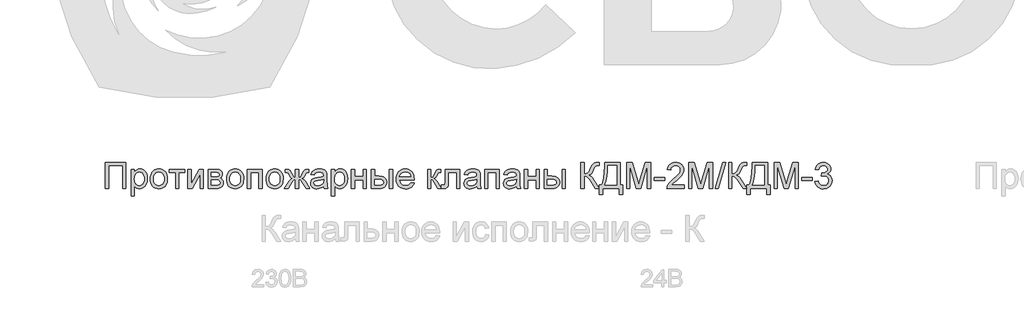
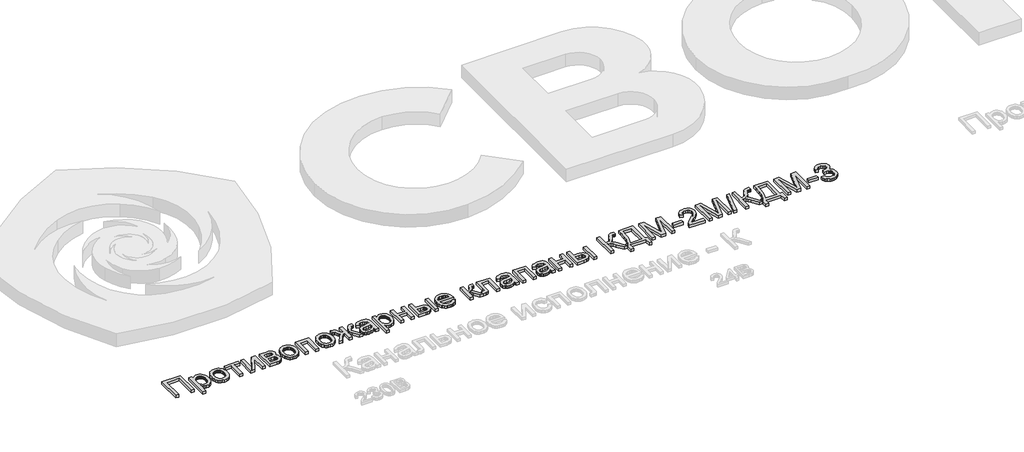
# One storey, part 13 of 23: 1 proxy.
"""IFC4 building model written with IfcOpenShell, lengths in millimetres."""

from ifc_helpers import new_model, si_unit, origin, origin_with_axes, place, context, project, spatial, polyline, outline, extrude, element, save

model = new_model("IFC4")

# Units and contexts
model_context = context("Model", 3, world=origin())
ifc_project = project(units=[si_unit("LENGTHUNIT", "METRE", prefix="MILLI")], contexts=[model_context])

# Site, building, storey
site = spatial("IfcSite", under=ifc_project)
building = spatial("IfcBuilding", under=site)
storey = spatial("IfcBuildingStorey", under=building, Name="Этаж 01", Elevation=0.0)

# Proxy
placement = place(None, origin())
element("IfcBuildingElementProxy", 1, Name="450 мм Arial", ObjectType="450 мм Arial", at=placement, inside=storey, context=model_context, shape_type="SweptSolid", body=[
    extrude(outline(polyline([(947.7209967, -1162.9519857), (1299.0148583, -1162.9519857), (1299.0148583, -1612.6081285), (1242.8078404, -1612.6081285), (1242.8078404, -1219.1590035), (1003.9280146, -1219.1590035), (1003.9280146, -1612.6081285), (947.7209967, -1612.6081285), (947.7209967, -1162.9519857)])), origin_with_axes(), (0.0, 0.0, 1.0), 50.0),
    extrude(outline(polyline([(1390.3512623, -1739.0739187), (1390.3512623, -1282.3918986), (1446.5582802, -1282.3918986), (1446.5582802, -1337.5011231), (1464.8914286, -1310.3170161), (1485.4201636, -1290.8997968), (1509.3520579, -1279.2494652), (1537.8946842, -1275.3660214), (1575.9057778, -1280.8000983), (1609.1414705, -1297.1023291), (1636.2020757, -1323.2846997), (1655.6879071, -1358.3591962), (1667.4617405, -1399.7734491), (1671.3863516, -1444.9750889), (1666.954011, -1493.0447138), (1653.6569895, -1536.0370446), (1631.9206818, -1571.7702171), (1602.1704829, -1598.062367), (1567.5213813, -1614.241096), (1531.0883656, -1619.6340057), (1505.2490554, -1616.0250102), (1482.1816733, -1605.1980236), (1462.435116, -1588.8546256), (1446.5582802, -1568.6963958), (1446.5582802, -1739.0739187), (1390.3512623, -1739.0739187)]), holes=[polyline([(1446.5582802, -1450.1347175), (1448.0780378, -1477.2227676), (1452.6373106, -1500.5234308), (1460.2360988, -1520.036707), (1470.8744021, -1535.7625963), (1483.6808473, -1547.8657676), (1497.7840608, -1556.51089), (1513.1840427, -1561.6979634), (1529.8807929, -1563.4269879), (1546.8176855, -1561.6362125), (1562.4989769, -1556.2638865), (1576.9246672, -1547.3100097), (1590.0947564, -1534.7745823), (1601.069259, -1518.4792127), (1608.9081894, -1498.2455096), (1613.6115476, -1474.073473), (1615.1793337, -1445.9631029), (1613.6492843, -1419.1083339), (1609.059136, -1395.848838), (1601.4088888, -1376.1846152), (1590.6985427, -1360.1156655), (1577.8612221, -1347.6282665), (1563.8300513, -1338.7086958), (1548.6050302, -1333.3569534), (1532.1861589, -1331.5730392), (1515.8187467, -1333.4701633), (1500.4187648, -1339.1615355), (1485.9862133, -1348.6471559), (1472.5210921, -1361.9270245), (1461.1623619, -1378.8227497), (1453.0489831, -1399.1559403), (1448.1809559, -1422.9265963), (1446.5582802, -1450.1347175)])]), origin_with_axes(), (0.0, 0.0, 1.0), 50.0),
    extrude(outline(polyline([(1720.5674922, -1447.5000135), (1723.6070074, -1404.7341026), (1732.7255532, -1367.8825532), (1747.9231294, -1336.9453653), (1769.1997361, -1311.9225388), (1790.6204282, -1295.9290624), (1814.2641518, -1284.5051507), (1840.1309069, -1277.6508037), (1868.2206934, -1275.3660214), (1899.229924, -1278.1482413), (1927.2682514, -1286.4949011), (1952.3356757, -1300.4060008), (1974.4321968, -1319.8815404), (1992.4668827, -1344.2628439), (2005.3488011, -1372.8912352), (2013.0779522, -1405.7667145), (2015.6543359, -1442.8892816), (2011.0984936, -1499.672641), (2005.4036908, -1522.9801653), (1997.4309668, -1542.8982528), (1975.0497056, -1575.2694333), (1944.3526599, -1599.4894983), (1907.8921994, -1614.5978789), (1868.2206934, -1619.6340057), (1836.758623, -1616.8620776), (1808.4595697, -1608.5462932), (1783.3235333, -1594.6866526), (1761.3505139, -1575.2831557), (1743.5079419, -1550.6651405), (1730.7632476, -1521.1619451), (1723.116431, -1486.7735695), (1720.5674922, -1447.5000135)]), holes=[polyline([(1776.77451, -1447.3902342), (1778.4006164, -1474.6532451), (1783.2789354, -1498.2592321), (1791.4094672, -1518.208195), (1802.7922117, -1534.5001339), (1816.6381299, -1547.1556325), (1832.1581829, -1556.1952744), (1849.3523707, -1561.6190595), (1868.2206934, -1563.4269879), (1886.9929591, -1561.6087677), (1904.1185349, -1556.1541071), (1919.5974206, -1547.0630062), (1933.4296164, -1534.335465), (1944.8123609, -1517.8822876), (1952.9428926, -1497.6142785), (1957.8212117, -1473.5314376), (1959.4473181, -1445.6337649), (1957.8109199, -1419.2352662), (1952.9017254, -1396.246788), (1944.7197346, -1376.6683303), (1933.2649474, -1360.4998931), (1919.3812926, -1347.8443945), (1903.9126986, -1338.8047527), (1886.8591655, -1333.3809676), (1868.2206934, -1331.5730392), (1849.3523707, -1333.3741064), (1832.1581829, -1338.7773079), (1816.6381299, -1347.7826437), (1802.7922117, -1360.3901138), (1791.4094672, -1376.6340243), (1783.2789354, -1396.5486812), (1778.4006164, -1420.1340845), (1776.77451, -1447.3902342)])]), origin_with_axes(), (0.0, 0.0, 1.0), 50.0),
    extrude(outline(polyline([(2050.7837221, -1282.3918986), (2317.7670569, -1282.3918986), (2317.7670569, -1338.5989165), (2212.3788984, -1338.5989165), (2212.3788984, -1612.6081285), (2156.1718805, -1612.6081285), (2156.1718805, -1338.5989165), (2050.7837221, -1338.5989165), (2050.7837221, -1282.3918986)])), origin_with_axes(), (0.0, 0.0, 1.0), 50.0),
    extrude(outline(polyline([(2366.9481975, -1282.3918986), (2423.1552153, -1282.3918986), (2423.1552153, -1534.2256856), (2561.2576147, -1282.3918986), (2633.9315323, -1282.3918986), (2633.9315323, -1612.6081285), (2577.7245144, -1612.6081285), (2577.7245144, -1362.3112521), (2440.5003497, -1612.6081285), (2366.9481975, -1612.6081285), (2366.9481975, -1282.3918986)])), origin_with_axes(), (0.0, 0.0, 1.0), 50.0),
    extrude(outline(polyline([(2718.2420591, -1282.3918986), (2842.0731453, -1282.3918986), (2881.8818754, -1284.2718697), (2909.9716619, -1289.9117828), (2930.6376211, -1300.560378), (2948.1748694, -1317.4663951), (2960.154539, -1339.4908735), (2964.1477622, -1365.4948527), (2961.7326169, -1386.4489827), (2954.487181, -1404.5214052), (2942.3840096, -1419.7944547), (2925.3956581, -1432.3504658), (2946.1988414, -1444.0282422), (2963.1597482, -1462.8142303), (2974.4395745, -1487.2264092), (2978.1995166, -1515.7827579), (2975.0776669, -1538.7883891), (2968.6761596, -1558.6241421), (2958.9949948, -1575.2900169), (2946.0341724, -1588.7860135), (2929.7731089, -1599.2081888), (2910.1912206, -1606.6525997), (2887.2885075, -1611.1192463), (2861.0649697, -1612.6081285), (2718.2420591, -1612.6081285), (2718.2420591, -1282.3918986)]), holes=[polyline([(2774.4490769, -1556.4011106), (2843.3904972, -1556.4011106), (2880.9624735, -1553.8624636), (2904.537585, -1546.2465224), (2917.189653, -1532.4006042), (2921.9924988, -1511.172026), (2919.5910759, -1497.1065491), (2912.3868072, -1484.1114207), (2901.3265396, -1473.9431101), (2887.3571196, -1468.3580866), (2837.9015307, -1465.0647066), (2774.4490769, -1465.0647066), (2774.4490769, -1556.4011106)]), polyline([(2774.4490769, -1408.8576888), (2829.9974188, -1408.8576888), (2875.8302898, -1406.0034261), (2898.1154941, -1394.5863756), (2905.4844318, -1385.1453531), (2907.9407443, -1373.9478613), (2903.6319055, -1357.1790684), (2890.7053892, -1346.393249), (2867.3498364, -1340.5474996), (2831.7538881, -1338.5989165), (2774.4490769, -1338.5989165), (2774.4490769, -1408.8576888)])]), origin_with_axes(), (0.0, 0.0, 1.0), 50.0),
    extrude(outline(polyline([(3034.4065345, -1447.5000135), (3037.4460497, -1404.7341026), (3046.5645955, -1367.8825532), (3061.7621717, -1336.9453653), (3083.0387784, -1311.9225388), (3104.4594705, -1295.9290624), (3128.1031941, -1284.5051507), (3153.9699492, -1277.6508037), (3182.0597357, -1275.3660214), (3213.0689663, -1278.1482413), (3241.1072937, -1286.4949011), (3266.174718, -1300.4060008), (3288.2712391, -1319.8815404), (3306.305925, -1344.2628439), (3319.1878434, -1372.8912352), (3326.9169945, -1405.7667145), (3329.4933782, -1442.8892816), (3324.9375359, -1499.672641), (3319.2427331, -1522.9801653), (3311.2700091, -1542.8982528), (3288.8887479, -1575.2694333), (3258.1917022, -1599.4894983), (3221.7312417, -1614.5978789), (3182.0597357, -1619.6340057), (3150.5976653, -1616.8620776), (3122.298612, -1608.5462932), (3097.1625756, -1594.6866526), (3075.1895562, -1575.2831557), (3057.3469842, -1550.6651405), (3044.6022899, -1521.1619451), (3036.9554733, -1486.7735695), (3034.4065345, -1447.5000135)]), holes=[polyline([(3090.6135523, -1447.3902342), (3092.2396587, -1474.6532451), (3097.1179777, -1498.2592321), (3105.2485095, -1518.208195), (3116.631254, -1534.5001339), (3130.4771722, -1547.1556325), (3145.9972252, -1556.1952744), (3163.191413, -1561.6190595), (3182.0597357, -1563.4269879), (3200.8320014, -1561.6087677), (3217.9575771, -1556.1541071), (3233.4364629, -1547.0630062), (3247.2686587, -1534.335465), (3258.6514032, -1517.8822876), (3266.7819349, -1497.6142785), (3271.660254, -1473.5314376), (3273.2863603, -1445.6337649), (3271.6499622, -1419.2352662), (3266.7407677, -1396.246788), (3258.5587769, -1376.6683303), (3247.1039897, -1360.4998931), (3233.2203349, -1347.8443945), (3217.7517409, -1338.8047527), (3200.6982078, -1333.3809676), (3182.0597357, -1331.5730392), (3163.191413, -1333.3741064), (3145.9972252, -1338.7773079), (3130.4771722, -1347.7826437), (3116.631254, -1360.3901138), (3105.2485095, -1376.6340243), (3097.1179777, -1396.5486812), (3092.2396587, -1420.1340845), (3090.6135523, -1447.3902342)])]), origin_with_axes(), (0.0, 0.0, 1.0), 50.0),
    extrude(outline(polyline([(3392.7262733, -1282.3918986), (3645.6578536, -1282.3918986), (3645.6578536, -1612.6081285), (3589.4508358, -1612.6081285), (3589.4508358, -1338.5989165), (3448.9332911, -1338.5989165), (3448.9332911, -1612.6081285), (3392.7262733, -1612.6081285), (3392.7262733, -1282.3918986)])), origin_with_axes(), (0.0, 0.0, 1.0), 50.0),
    extrude(outline(polyline([(3715.9166259, -1447.5000135), (3718.9561412, -1404.7341026), (3728.0746869, -1367.8825532), (3743.2722632, -1336.9453653), (3764.5488699, -1311.9225388), (3785.969562, -1295.9290624), (3809.6132856, -1284.5051507), (3835.4800406, -1277.6508037), (3863.5698271, -1275.3660214), (3894.5790577, -1278.1482413), (3922.6173852, -1286.4949011), (3947.6848095, -1300.4060008), (3969.7813306, -1319.8815404), (3987.8160164, -1344.2628439), (4000.6979349, -1372.8912352), (4008.427086, -1405.7667145), (4011.0034697, -1442.8892816), (4006.4476274, -1499.672641), (4000.7528246, -1522.9801653), (3992.7801006, -1542.8982528), (3970.3988393, -1575.2694333), (3939.7017937, -1599.4894983), (3903.2413331, -1614.5978789), (3863.5698271, -1619.6340057), (3832.1077568, -1616.8620776), (3803.8087034, -1608.5462932), (3778.672667, -1594.6866526), (3756.6996477, -1575.2831557), (3738.8570757, -1550.6651405), (3726.1123814, -1521.1619451), (3718.4655648, -1486.7735695), (3715.9166259, -1447.5000135)]), holes=[polyline([(3772.1236438, -1447.3902342), (3773.7497501, -1474.6532451), (3778.6280692, -1498.2592321), (3786.7586009, -1518.208195), (3798.1413454, -1534.5001339), (3811.9872636, -1547.1556325), (3827.5073166, -1556.1952744), (3844.7015045, -1561.6190595), (3863.5698271, -1563.4269879), (3882.3420929, -1561.6087677), (3899.4676686, -1556.1541071), (3914.9465544, -1547.0630062), (3928.7787502, -1534.335465), (3940.1614946, -1517.8822876), (3948.2920264, -1497.6142785), (3953.1703455, -1473.5314376), (3954.7964518, -1445.6337649), (3953.1600536, -1419.2352662), (3948.2508591, -1396.246788), (3940.0688683, -1376.6683303), (3928.6140812, -1360.4998931), (3914.7304263, -1347.8443945), (3899.2618324, -1338.8047527), (3882.2082993, -1333.3809676), (3863.5698271, -1331.5730392), (3844.7015045, -1333.3741064), (3827.5073166, -1338.7773079), (3811.9872636, -1347.7826437), (3798.1413454, -1360.3901138), (3786.7586009, -1376.6340243), (3778.6280692, -1396.5486812), (3773.7497501, -1420.1340845), (3772.1236438, -1447.3902342)])]), origin_with_axes(), (0.0, 0.0, 1.0), 50.0),
    extrude(outline(polyline([(4277.9868045, -1282.3918986), (4277.9868045, -1422.9094432), (4297.8156963, -1420.0140134), (4310.755935, -1411.3277237), (4341.7685962, -1351.2235396), (4361.1172034, -1313.7613426), (4378.764231, -1293.5893904), (4400.1986455, -1285.1912716), (4431.3485309, -1282.3918986), (4453.6337352, -1282.3918986), (4453.6337352, -1338.9282545), (4438.1548495, -1338.5989165), (4419.6021424, -1340.0534926), (4409.1731059, -1344.417221), (4389.0834882, -1380.8639592), (4376.9391496, -1405.2898605), (4365.7553802, -1420.8236359), (4352.074131, -1431.4447863), (4332.437353, -1441.1328123), (4350.9283092, -1449.0437854), (4369.1859843, -1463.0063442), (4387.2103783, -1483.0204886), (4405.0014913, -1509.0862187), (4467.6854897, -1612.6081285), (4403.245022, -1612.6081285), (4341.5490375, -1510.51335), (4324.6841877, -1483.7134706), (4310.097259, -1468.0836382), (4295.3456613, -1460.5500316), (4277.9868045, -1458.0388294), (4277.9868045, -1612.6081285), (4221.7797866, -1612.6081285), (4221.7797866, -1458.0388294), (4204.5581539, -1460.4951419), (4189.7791114, -1467.8640796), (4175.0824034, -1483.3841326), (4158.1077742, -1510.2937913), (4096.4117898, -1612.6081285), (4032.0811014, -1612.6081285), (4094.5455411, -1509.0862187), (4112.4876006, -1483.0204886), (4130.6354964, -1463.0063442), (4148.9892284, -1449.0437854), (4167.5487967, -1441.1328123), (4146.0869374, -1430.3744378), (4132.1998519, -1418.7378286), (4119.5752287, -1398.2914281), (4101.9007563, -1361.1036795), (4094.7376549, -1348.7260598), (4087.0805466, -1342.1118551), (4062.8193142, -1338.2695785), (4046.1328558, -1338.5989165), (4046.1328558, -1282.3918986), (4054.5858644, -1282.3918986), (4103.8767843, -1285.9048372), (4117.4070869, -1291.3938038), (4129.4553686, -1300.8348263), (4142.2721056, -1319.1405299), (4158.1077742, -1351.2235396), (4188.7910974, -1410.9434961), (4201.7313361, -1419.9179564), (4221.7797866, -1422.9094432), (4221.7797866, -1282.3918986), (4277.9868045, -1282.3918986)])), origin_with_axes(), (0.0, 0.0, 1.0), 50.0),
    extrude(outline(polyline([(4706.5653156, -1570.4528651), (4679.7105465, -1593.4790799), (4652.0598774, -1608.5462932), (4622.9820769, -1616.8620776), (4591.8459139, -1619.6340057), (4566.8196569, -1617.9667321), (4544.8740823, -1612.9649113), (4526.0091903, -1604.6285433), (4510.2249808, -1592.9576281), (4497.761596, -1578.6931762), (4488.8591783, -1562.576198), (4483.5177277, -1544.6066937), (4481.7372442, -1524.7846631), (4484.4268378, -1501.4839999), (4492.4956187, -1480.3240337), (4504.9418504, -1462.210444), (4520.7637966, -1448.0489102), (4539.3576709, -1437.3454254), (4560.119687, -1429.6059825), (4608.751931, -1421.1529739), (4666.2214112, -1412.2608481), (4706.2359776, -1401.8318115), (4706.5653156, -1389.3169677), (4702.6955941, -1364.2323904), (4691.0864298, -1347.8203803), (4665.1236178, -1335.6348745), (4628.951328, -1331.5730392), (4595.4686319, -1334.2763553), (4572.0856342, -1342.3863034), (4556.1401863, -1357.3849046), (4544.9701393, -1380.7541798), (4488.7631214, -1373.7283026), (4498.5197595, -1342.9900897), (4513.0792434, -1318.8386367), (4533.8000922, -1300.3682642), (4562.0408253, -1286.6732925), (4596.5801476, -1278.1928392), (4636.1967639, -1275.3660214), (4674.1941351, -1277.8635012), (4704.3148393, -1285.3559406), (4727.0254385, -1296.6220445), (4742.7924951, -1310.4405179), (4753.2489764, -1327.5249264), (4760.0278501, -1348.5888356), (4762.7723334, -1397.7699763), (4762.7723334, -1467.6994106), (4765.6265961, -1565.3481262), (4776.8240879, -1612.6081285), (4720.61707, -1612.6081285), (4711.6151648, -1593.0674074), (4706.5653156, -1570.4528651)]), holes=[polyline([(4706.5653156, -1458.0388294), (4668.8012255, -1467.3975174), (4615.8875876, -1475.2741845), (4567.5297919, -1484.385869), (4554.946336, -1490.6158461), (4545.6288152, -1499.2060788), (4539.8654003, -1509.4978911), (4537.944262, -1520.8326071), (4542.129599, -1537.5465104), (4554.6856101, -1551.241482), (4575.3378469, -1560.3806114), (4603.8118611, -1563.4269879), (4634.0011773, -1560.0649958), (4660.6775549, -1549.9790197), (4682.3040833, -1535.1176427), (4697.3438517, -1517.4294479), (4704.0129461, -1499.2060788), (4706.2359776, -1473.9568325), (4706.5653156, -1458.0388294)])]), origin_with_axes(), (0.0, 0.0, 1.0), 50.0),
    extrude(outline(polyline([(4840.056983, -1739.0739187), (4840.056983, -1282.3918986), (4896.2640008, -1282.3918986), (4896.2640008, -1337.5011231), (4914.5971492, -1310.3170161), (4935.1258843, -1290.8997968), (4959.0577786, -1279.2494652), (4987.6004048, -1275.3660214), (5025.6114985, -1280.8000983), (5058.8471911, -1297.1023291), (5085.9077964, -1323.2846997), (5105.3936278, -1358.3591962), (5117.1674611, -1399.7734491), (5121.0920722, -1444.9750889), (5116.6597317, -1493.0447138), (5103.3627102, -1536.0370446), (5081.6264025, -1571.7702171), (5051.8762036, -1598.062367), (5017.227102, -1614.241096), (4980.7940863, -1619.6340057), (4954.9547761, -1616.0250102), (4931.887394, -1605.1980236), (4912.1408367, -1588.8546256), (4896.2640008, -1568.6963958), (4896.2640008, -1739.0739187), (4840.056983, -1739.0739187)]), holes=[polyline([(4896.2640008, -1450.1347175), (4897.7837585, -1477.2227676), (4902.3430313, -1500.5234308), (4909.9418194, -1520.036707), (4920.5801228, -1535.7625963), (4933.386568, -1547.8657676), (4947.4897815, -1556.51089), (4962.8897634, -1561.6979634), (4979.5865136, -1563.4269879), (4996.5234061, -1561.6362125), (5012.2046976, -1556.2638865), (5026.6303879, -1547.3100097), (5039.8004771, -1534.7745823), (5050.7749797, -1518.4792127), (5058.6139101, -1498.2455096), (5063.3172683, -1474.073473), (5064.8850544, -1445.9631029), (5063.3550049, -1419.1083339), (5058.7648566, -1395.848838), (5051.1146095, -1376.1846152), (5040.4042634, -1360.1156655), (5027.5669428, -1347.6282665), (5013.535772, -1338.7086958), (4998.3107509, -1333.3569534), (4981.8918796, -1331.5730392), (4965.5244673, -1333.4701633), (4950.1244855, -1339.1615355), (4935.6919339, -1348.6471559), (4922.2268128, -1361.9270245), (4910.8680826, -1378.8227497), (4902.7547038, -1399.1559403), (4897.8866766, -1422.9265963), (4896.2640008, -1450.1347175)])]), origin_with_axes(), (0.0, 0.0, 1.0), 50.0),
    extrude(outline(polyline([(5184.3249673, -1282.3918986), (5240.5319852, -1282.3918986), (5240.5319852, -1408.8576888), (5388.075407, -1408.8576888), (5388.075407, -1282.3918986), (5444.2824249, -1282.3918986), (5444.2824249, -1612.6081285), (5388.075407, -1612.6081285), (5388.075407, -1465.0647066), (5240.5319852, -1465.0647066), (5240.5319852, -1612.6081285), (5184.3249673, -1612.6081285), (5184.3249673, -1282.3918986)])), origin_with_axes(), (0.0, 0.0, 1.0), 50.0),
    extrude(outline(polyline([(5528.5929517, -1282.3918986), (5584.7999695, -1282.3918986), (5584.7999695, -1401.8318115), (5654.2902865, -1401.8318115), (5686.2669475, -1403.5917115), (5714.3533034, -1408.8714112), (5738.5493542, -1417.6709107), (5758.8551, -1429.9902101), (5774.9206191, -1445.4039144), (5786.3959898, -1463.4866287), (5793.2812123, -1484.238353), (5795.5762865, -1507.6590873), (5793.6517176, -1528.554897), (5787.8780108, -1547.87949), (5778.2551663, -1565.6328663), (5764.7831839, -1581.8150259), (5747.0846973, -1595.2870083), (5724.7823399, -1604.9098528), (5697.8761118, -1610.6835596), (5666.366013, -1612.6081285), (5528.5929517, -1612.6081285), (5528.5929517, -1282.3918986)]), holes=[polyline([(5584.7999695, -1556.4011106), (5642.543898, -1556.4011106), (5687.3064205, -1553.4507911), (5717.0840643, -1544.5998325), (5733.7979675, -1529.4914519), (5739.3692686, -1507.7688667), (5735.2388213, -1489.4082734), (5722.8474792, -1473.1883772), (5712.0925353, -1466.56045), (5696.349493, -1461.8262163), (5649.8991132, -1458.0388294), (5584.7999695, -1458.0388294), (5584.7999695, -1556.4011106)])]), origin_with_axes(), (0.0, 0.0, 1.0), 50.0),
    extrude(outline(polyline([(5837.7315499, -1282.3918986), (5893.9385677, -1282.3918986), (5893.9385677, -1612.6081285), (5837.7315499, -1612.6081285), (5837.7315499, -1282.3918986)])), origin_with_axes(), (0.0, 0.0, 1.0), 50.0),
    extrude(outline(polyline([(6209.4443671, -1514.2458472), (6264.5535917, -1521.2717245), (6256.1040137, -1543.3442314), (6244.697255, -1562.7957567), (6230.3333156, -1579.6263005), (6213.0121954, -1593.8358628), (6192.9122859, -1605.1225503), (6170.2119785, -1613.18447), (6144.9112731, -1618.0216218), (6117.0101698, -1619.6340057), (6082.1346484, -1616.8517858), (6051.0602363, -1608.505126), (6023.7869335, -1594.5940263), (6000.3147402, -1575.1184867), (5981.4395563, -1550.6205427), (5967.9572821, -1521.6422297), (5959.8679176, -1488.1835478), (5957.1714628, -1450.2444968), (5959.8953625, -1411.0189694), (5968.0670615, -1376.4453411), (5981.6865598, -1346.523612), (6000.7538575, -1321.253782), (6024.1643, -1301.1778867), (6050.8132328, -1286.8379615), (6080.7006558, -1278.2340064), (6113.8265692, -1275.3660214), (6145.8855647, -1278.2271452), (6174.8776001, -1286.8105167), (6200.8026754, -1301.1161359), (6223.6607906, -1321.1440027), (6242.3198464, -1346.358943), (6255.6477434, -1376.2257824), (6263.6444816, -1410.744521), (6266.310061, -1449.9151588), (6265.980723, -1465.0647066), (6013.3784806, -1465.0647066), (6016.6341239, -1487.4939963), (6023.1076739, -1507.1376355), (6032.7991305, -1523.9956241), (6045.7084938, -1538.0679622), (6061.1221981, -1549.1625359), (6078.3266778, -1557.0872315), (6097.3219328, -1561.8420488), (6118.1079631, -1563.4269879), (6148.022831, -1560.4903907), (6173.2171877, -1551.6805994), (6193.691033, -1536.4487171), (6209.4443671, -1514.2458472)]), holes=[polyline([(6013.3784806, -1408.8576888), (6210.1030431, -1408.8576888), (6202.5008244, -1379.1623795), (6187.5982801, -1357.9200788), (6172.2703409, -1346.393249), (6154.8291496, -1338.1597991), (6135.2747061, -1333.2197292), (6113.6070105, -1331.5730392), (6075.7194187, -1336.8287247), (6044.3911419, -1352.5957813), (6031.9346183, -1363.9956787), (6022.6136669, -1377.1726291), (6016.4282877, -1392.1266325), (6013.3784806, -1408.8576888)])]), origin_with_axes(), (0.0, 0.0, 1.0), 50.0),
    extrude(outline(polyline([(6800.2767306, -1282.3918986), (7053.2083109, -1282.3918986), (7053.2083109, -1612.2787905), (6997.0012931, -1612.2787905), (6997.0012931, -1338.5989165), (6856.4837484, -1338.5989165), (6856.4837484, -1496.1322575), (6852.6963615, -1568.8061751), (6845.6018722, -1585.2593525), (6831.8931781, -1599.4894983), (6811.0899947, -1609.3284709), (6782.7120375, -1612.6081285), (6737.0438355, -1609.7538659), (6737.0438355, -1556.4011106), (6762.1833025, -1556.4011106), (6787.5972178, -1552.9430617), (6793.9506966, -1548.4695539), (6797.7518059, -1541.9651285), (6800.2767306, -1492.9486569), (6800.2767306, -1282.3918986)])), origin_with_axes(), (0.0, 0.0, 1.0), 50.0),
    extrude(outline(polyline([(6498.1640096, -1282.3918986), (6554.3710275, -1282.3918986), (6554.3710275, -1422.9094432), (6577.2325733, -1420.3845186), (6592.0253383, -1412.8097447), (6605.1165236, -1393.049465), (6622.8733305, -1353.9680229), (6637.1858109, -1322.0085149), (6648.5068044, -1303.195082), (6659.0730651, -1292.9444369), (6671.1213468, -1286.6732925), (6712.2337065, -1282.3918986), (6722.992081, -1282.3918986), (6722.992081, -1338.9282545), (6707.8425332, -1338.5989165), (6690.2778402, -1340.0809374), (6680.3977003, -1344.5270004), (6661.0765379, -1381.5226352), (6649.2066477, -1406.1818176), (6638.4071059, -1421.5372016), (6625.329643, -1431.7878467), (6606.6259894, -1441.1328123), (6624.437686, -1449.0437854), (6642.0847135, -1463.0063442), (6659.5670721, -1483.0204886), (6676.8847617, -1509.0862187), (6737.0438355, -1612.6081285), (6673.1522644, -1612.6081285), (6614.2007633, -1511.2818053), (6598.2827602, -1484.3172569), (6584.5603437, -1468.4129762), (6570.7007031, -1460.6323661), (6554.3710275, -1458.0388294), (6554.3710275, -1612.6081285), (6498.1640096, -1612.6081285), (6498.1640096, -1282.3918986)])), origin_with_axes(), (0.0, 0.0, 1.0), 50.0),
    extrude(outline(polyline([(7348.2951546, -1570.4528651), (7321.4403856, -1593.4790799), (7293.7897164, -1608.5462932), (7264.7119159, -1616.8620776), (7233.575753, -1619.6340057), (7208.5494959, -1617.9667321), (7186.6039214, -1612.9649113), (7167.7390294, -1604.6285433), (7151.9548198, -1592.9576281), (7139.4914351, -1578.6931762), (7130.5890174, -1562.576198), (7125.2475668, -1544.6066937), (7123.4670832, -1524.7846631), (7126.1566768, -1501.4839999), (7134.2254577, -1480.3240337), (7146.6716895, -1462.210444), (7162.4936357, -1448.0489102), (7181.08751, -1437.3454254), (7201.8495261, -1429.6059825), (7250.48177, -1421.1529739), (7307.9512502, -1412.2608481), (7347.9658166, -1401.8318115), (7348.2951546, -1389.3169677), (7344.4254332, -1364.2323904), (7332.8162689, -1347.8203803), (7306.8534569, -1335.6348745), (7270.6811671, -1331.5730392), (7237.1984709, -1334.2763553), (7213.8154732, -1342.3863034), (7197.8700253, -1357.3849046), (7186.6999783, -1380.7541798), (7130.4929605, -1373.7283026), (7140.2495986, -1342.9900897), (7154.8090824, -1318.8386367), (7175.5299313, -1300.3682642), (7203.7706644, -1286.6732925), (7238.3099866, -1278.1928392), (7277.926603, -1275.3660214), (7315.9239742, -1277.8635012), (7346.0446783, -1285.3559406), (7368.7552776, -1296.6220445), (7384.5223341, -1310.4405179), (7394.9788155, -1327.5249264), (7401.7576892, -1348.5888356), (7404.5021725, -1397.7699763), (7404.5021725, -1467.6994106), (7407.3564351, -1565.3481262), (7418.5539269, -1612.6081285), (7362.3469091, -1612.6081285), (7353.3450039, -1593.0674074), (7348.2951546, -1570.4528651)]), holes=[polyline([(7348.2951546, -1458.0388294), (7310.5310645, -1467.3975174), (7257.6174266, -1475.2741845), (7209.259631, -1484.385869), (7196.6761751, -1490.6158461), (7187.3586543, -1499.2060788), (7181.5952394, -1509.4978911), (7179.6741011, -1520.8326071), (7183.8594381, -1537.5465104), (7196.4154492, -1551.241482), (7217.0676859, -1560.3806114), (7245.5417001, -1563.4269879), (7275.7310163, -1560.0649958), (7302.407394, -1549.9790197), (7324.0339223, -1535.1176427), (7339.0736908, -1517.4294479), (7345.7427852, -1499.2060788), (7347.9658166, -1473.9568325), (7348.2951546, -1458.0388294)])]), origin_with_axes(), (0.0, 0.0, 1.0), 50.0),
    extrude(outline(polyline([(7481.786822, -1282.3918986), (7734.7184024, -1282.3918986), (7734.7184024, -1612.6081285), (7678.5113845, -1612.6081285), (7678.5113845, -1338.5989165), (7537.9938399, -1338.5989165), (7537.9938399, -1612.6081285), (7481.786822, -1612.6081285), (7481.786822, -1282.3918986)])), origin_with_axes(), (0.0, 0.0, 1.0), 50.0),
    extrude(outline(polyline([(8029.8052461, -1570.4528651), (8002.9504771, -1593.4790799), (7975.2998079, -1608.5462932), (7946.2220074, -1616.8620776), (7915.0858444, -1619.6340057), (7890.0595874, -1617.9667321), (7868.1140128, -1612.9649113), (7849.2491208, -1604.6285433), (7833.4649113, -1592.9576281), (7821.0015265, -1578.6931762), (7812.0991088, -1562.576198), (7806.7576582, -1544.6066937), (7804.9771747, -1524.7846631), (7807.6667683, -1501.4839999), (7815.7355492, -1480.3240337), (7828.1817809, -1462.210444), (7844.0037271, -1448.0489102), (7862.5976014, -1437.3454254), (7883.3596175, -1429.6059825), (7931.9918615, -1421.1529739), (7989.4613417, -1412.2608481), (8029.4759081, -1401.8318115), (8029.8052461, -1389.3169677), (8025.9355246, -1364.2323904), (8014.3263603, -1347.8203803), (7988.3635484, -1335.6348745), (7952.1912585, -1331.5730392), (7918.7085624, -1334.2763553), (7895.3255647, -1342.3863034), (7879.3801168, -1357.3849046), (7868.2100698, -1380.7541798), (7812.0030519, -1373.7283026), (7821.75969, -1342.9900897), (7836.3191739, -1318.8386367), (7857.0400228, -1300.3682642), (7885.2807558, -1286.6732925), (7919.8200781, -1278.1928392), (7959.4366944, -1275.3660214), (7997.4340656, -1277.8635012), (8027.5547698, -1285.3559406), (8050.265369, -1296.6220445), (8066.0324256, -1310.4405179), (8076.4889069, -1327.5249264), (8083.2677806, -1348.5888356), (8086.0122639, -1397.7699763), (8086.0122639, -1467.6994106), (8088.8665266, -1565.3481262), (8100.0640184, -1612.6081285), (8043.8570006, -1612.6081285), (8034.8550953, -1593.0674074), (8029.8052461, -1570.4528651)]), holes=[polyline([(8029.8052461, -1458.0388294), (7992.041156, -1467.3975174), (7939.1275181, -1475.2741845), (7890.7697224, -1484.385869), (7878.1862665, -1490.6158461), (7868.8687458, -1499.2060788), (7863.1053308, -1509.4978911), (7861.1841925, -1520.8326071), (7865.3695296, -1537.5465104), (7877.9255406, -1551.241482), (7898.5777774, -1560.3806114), (7927.0517916, -1563.4269879), (7957.2411078, -1560.0649958), (7983.9174854, -1549.9790197), (8005.5440138, -1535.1176427), (8020.5837822, -1517.4294479), (8027.2528766, -1499.2060788), (8029.4759081, -1473.9568325), (8029.8052461, -1458.0388294)])]), origin_with_axes(), (0.0, 0.0, 1.0), 50.0),
    extrude(outline(polyline([(8163.2969135, -1282.3918986), (8219.5039313, -1282.3918986), (8219.5039313, -1408.8576888), (8367.0473532, -1408.8576888), (8367.0473532, -1282.3918986), (8423.2543711, -1282.3918986), (8423.2543711, -1612.6081285), (8367.0473532, -1612.6081285), (8367.0473532, -1465.0647066), (8219.5039313, -1465.0647066), (8219.5039313, -1612.6081285), (8163.2969135, -1612.6081285), (8163.2969135, -1282.3918986)])), origin_with_axes(), (0.0, 0.0, 1.0), 50.0),
    extrude(outline(polyline([(8507.5648978, -1282.3918986), (8563.7719157, -1282.3918986), (8563.7719157, -1401.8318115), (8633.2622327, -1401.8318115), (8665.2388936, -1403.5917115), (8693.3252496, -1408.8714112), (8717.5213004, -1417.6709107), (8737.8270462, -1429.9902101), (8753.8925652, -1445.4039144), (8765.367936, -1463.4866287), (8772.2531585, -1484.238353), (8774.5482326, -1507.6590873), (8772.6236637, -1528.554897), (8766.849957, -1547.87949), (8757.2271124, -1565.6328663), (8743.7551301, -1581.8150259), (8726.0566434, -1595.2870083), (8703.7542861, -1604.9098528), (8676.848058, -1610.6835596), (8645.3379592, -1612.6081285), (8507.5648978, -1612.6081285), (8507.5648978, -1282.3918986)]), holes=[polyline([(8563.7719157, -1556.4011106), (8621.5158442, -1556.4011106), (8666.2783667, -1553.4507911), (8696.0560104, -1544.5998325), (8712.7699137, -1529.4914519), (8718.3412148, -1507.7688667), (8714.2107674, -1489.4082734), (8701.8194253, -1473.1883772), (8691.0644814, -1466.56045), (8675.3214391, -1461.8262163), (8628.8710594, -1458.0388294), (8563.7719157, -1458.0388294), (8563.7719157, -1556.4011106)])]), origin_with_axes(), (0.0, 0.0, 1.0), 50.0),
    extrude(outline(polyline([(8816.703496, -1282.3918986), (8872.9105139, -1282.3918986), (8872.9105139, -1612.6081285), (8816.703496, -1612.6081285), (8816.703496, -1282.3918986)])), origin_with_axes(), (0.0, 0.0, 1.0), 50.0),
    extrude(outline(polyline([(9547.3947281, -1162.9519857), (9814.3780629, -1162.9519857), (9814.3780629, -1556.4011106), (9856.5333263, -1556.4011106), (9856.5333263, -1717.996287), (9800.3263084, -1717.996287), (9800.3263084, -1612.6081285), (9512.2653419, -1612.6081285), (9512.2653419, -1717.996287), (9456.0583241, -1717.996287), (9456.0583241, -1612.6081285), (9456.0583241, -1556.4011106), (9491.1877102, -1556.4011106), (9504.3612301, -1533.5001128), (9515.7782806, -1505.4154722), (9533.3429736, -1433.6952626), (9543.8817895, -1341.2404816), (9547.3947281, -1228.0511294), (9547.3947281, -1162.9519857)]), holes=[polyline([(9758.171045, -1219.1590035), (9603.6017459, -1219.1590035), (9603.6017459, -1241.7735459), (9600.7474833, -1308.4370451), (9592.1846954, -1395.7939483), (9585.1039285, -1442.4707479), (9575.2786784, -1484.7975415), (9562.7089449, -1522.7743291), (9547.3947281, -1556.4011106), (9758.171045, -1556.4011106), (9758.171045, -1219.1590035)])]), origin_with_axes(), (0.0, 0.0, 1.0), 50.0),
    extrude(outline(polyline([(9139.8938487, -1162.9519857), (9196.1008665, -1162.9519857), (9196.1008665, -1359.6765481), (9234.1531274, -1355.9577733), (9258.9495339, -1344.8014487), (9278.9979844, -1318.550466), (9302.806377, -1269.5477168), (9333.8190382, -1206.6990494), (9348.7764721, -1189.6695305), (9368.9484243, -1175.5766088), (9392.8940411, -1166.1081415), (9419.1724686, -1162.9519857), (9456.0583241, -1163.6106617), (9456.0583241, -1219.8176795), (9443.6532596, -1219.4883415), (9431.2481951, -1219.1590035), (9405.5049418, -1222.534718), (9387.3364624, -1232.6618613), (9371.6929076, -1253.9316068), (9353.9635456, -1290.5155692), (9332.2135155, -1336.0739918), (9314.1685378, -1360.9939001), (9296.3705637, -1374.1125303), (9275.361544, -1384.2671185), (9297.1321578, -1393.5297496), (9318.7518249, -1409.6810338), (9340.2205455, -1432.720971), (9361.5383195, -1462.6495613), (9456.0583241, -1612.6081285), (9390.849401, -1612.6081285), (9310.9300475, -1485.9227797), (9280.0683329, -1445.2907045), (9254.66814, -1419.7807323), (9228.6916056, -1406.3190417), (9196.1008665, -1401.8318115), (9196.1008665, -1612.6081285), (9139.8938487, -1612.6081285), (9139.8938487, -1162.9519857)])), origin_with_axes(), (0.0, 0.0, 1.0), 50.0),
    extrude(outline(polyline([(9926.7920986, -1612.6081285), (9926.7920986, -1162.9519857), (10023.5076899, -1162.9519857), (10115.5027699, -1479.8849164), (10134.0554769, -1546.0818534), (10154.1450946, -1474.3959498), (10244.603264, -1162.9519857), (10341.3188553, -1162.9519857), (10341.3188553, -1612.6081285), (10285.1118374, -1612.6081285), (10285.1118374, -1219.1590035), (10172.148905, -1612.6081285), (10095.9620488, -1612.6081285), (9982.9991165, -1219.1590035), (9982.9991165, -1612.6081285), (9926.7920986, -1612.6081285)])), origin_with_axes(), (0.0, 0.0, 1.0), 50.0),
    extrude(outline(polyline([(10404.5517503, -1479.1164611), (10404.5517503, -1422.9094432), (10580.1986811, -1422.9094432), (10580.1986811, -1479.1164611), (10404.5517503, -1479.1164611)])), origin_with_axes(), (0.0, 0.0, 1.0), 50.0),
    extrude(outline(polyline([(10917.4407882, -1556.4011106), (10917.4407882, -1612.6081285), (10622.3539445, -1612.6081285), (10623.588962, -1592.8204039), (10628.3918078, -1573.8560244), (10642.2514484, -1543.5706512), (10662.5331799, -1514.1909576), (10691.8717063, -1483.4390223), (10732.9017316, -1449.0369242), (10793.5548124, -1395.1627171), (10829.9466608, -1355.3951542), (10848.1425851, -1323.1200307), (10854.2078932, -1291.7231418), (10848.4856455, -1263.5784656), (10831.3189025, -1240.1817455), (10804.9306956, -1224.414689), (10771.5440564, -1219.1590035), (10736.4832823, -1224.2911873), (10721.8860618, -1230.706417), (10709.2442856, -1239.6877386), (10699.0176547, -1250.9332589), (10691.6658701, -1264.1410847), (10687.1889317, -1279.3112161), (10685.5868396, -1296.4436531), (10629.3798218, -1289.4177758), (10634.213543, -1260.4017262), (10643.0061813, -1235.0495618), (10655.7577368, -1213.3612826), (10672.4682095, -1195.3368885), (10692.7533716, -1181.1684935), (10716.2289956, -1171.0482114), (10742.8950814, -1164.9760421), (10772.751629, -1162.9519857), (10802.8757638, -1165.202462), (10829.6859349, -1171.9538909), (10853.1821425, -1183.2062724), (10873.3643865, -1198.9596065), (10889.573991, -1218.0474878), (10901.1522799, -1239.3035109), (10908.0992532, -1262.7276758), (10910.414911, -1288.3199825), (10907.9174312, -1315.2021964), (10900.4249918, -1341.6178481), (10887.1279703, -1368.4863395), (10867.216744, -1396.7270726), (10835.4767947, -1430.4430499), (10786.6936041, -1473.7372738), (10722.0335777, -1527.8035947), (10696.6745521, -1556.4011106), (10917.4407882, -1556.4011106)])), origin_with_axes(), (0.0, 0.0, 1.0), 50.0),
    extrude(outline(polyline([(10994.7254378, -1612.6081285), (10994.7254378, -1162.9519857), (11091.4410291, -1162.9519857), (11183.4361091, -1479.8849164), (11201.9888161, -1546.0818534), (11222.0784338, -1474.3959498), (11312.5366032, -1162.9519857), (11409.2521944, -1162.9519857), (11409.2521944, -1612.6081285), (11353.0451766, -1612.6081285), (11353.0451766, -1219.1590035), (11240.0822442, -1612.6081285), (11163.895388, -1612.6081285), (11050.9324556, -1219.1590035), (11050.9324556, -1612.6081285), (10994.7254378, -1612.6081285)])), origin_with_axes(), (0.0, 0.0, 1.0), 50.0),
    extrude(outline(polyline([(11458.4333351, -1612.6081285), (11584.8991252, -1162.9519857), (11635.6171765, -1162.9519857), (11509.1513863, -1612.6081285), (11458.4333351, -1612.6081285)])), origin_with_axes(), (0.0, 0.0, 1.0), 50.0),
    extrude(outline(polyline([(11683.2614065, -1162.9519857), (11739.4684243, -1162.9519857), (11739.4684243, -1359.6765481), (11777.5206852, -1355.9577733), (11802.3170918, -1344.8014487), (11822.3655422, -1318.550466), (11846.1739348, -1269.5477168), (11877.186596, -1206.6990494), (11892.14403, -1189.6695305), (11912.3159822, -1175.5766088), (11936.2615989, -1166.1081415), (11962.5400264, -1162.9519857), (11999.4258819, -1163.6106617), (11999.4258819, -1219.8176795), (11987.0208174, -1219.4883415), (11974.6157529, -1219.1590035), (11948.8724996, -1222.534718), (11930.7040202, -1232.6618613), (11915.0604655, -1253.9316068), (11897.3311034, -1290.5155692), (11875.5810733, -1336.0739918), (11857.5360956, -1360.9939001), (11839.7381215, -1374.1125303), (11818.7291018, -1384.2671185), (11840.4997156, -1393.5297496), (11862.1193827, -1409.6810338), (11883.5881033, -1432.720971), (11904.9058773, -1462.6495613), (11999.4258819, -1612.6081285), (11934.2169588, -1612.6081285), (11854.2976053, -1485.9227797), (11823.4358907, -1445.2907045), (11798.0356978, -1419.7807323), (11772.0591634, -1406.3190417), (11739.4684243, -1401.8318115), (11739.4684243, -1612.6081285), (11683.2614065, -1612.6081285), (11683.2614065, -1162.9519857)])), origin_with_axes(), (0.0, 0.0, 1.0), 50.0),
    extrude(outline(polyline([(12090.7622859, -1162.9519857), (12357.7456207, -1162.9519857), (12357.7456207, -1556.4011106), (12399.9008841, -1556.4011106), (12399.9008841, -1717.996287), (12343.6938662, -1717.996287), (12343.6938662, -1612.6081285), (12055.6328997, -1612.6081285), (12055.6328997, -1717.996287), (11999.4258819, -1717.996287), (11999.4258819, -1612.6081285), (11999.4258819, -1556.4011106), (12034.5552681, -1556.4011106), (12047.7287879, -1533.5001128), (12059.1458384, -1505.4154722), (12076.7105314, -1433.6952626), (12087.2493473, -1341.2404816), (12090.7622859, -1228.0511294), (12090.7622859, -1162.9519857)]), holes=[polyline([(12301.5386029, -1219.1590035), (12146.9693038, -1219.1590035), (12146.9693038, -1241.7735459), (12144.1150411, -1308.4370451), (12135.5522533, -1395.7939483), (12128.4714864, -1442.4707479), (12118.6462362, -1484.7975415), (12106.0765027, -1522.7743291), (12090.7622859, -1556.4011106), (12301.5386029, -1556.4011106), (12301.5386029, -1219.1590035)])]), origin_with_axes(), (0.0, 0.0, 1.0), 50.0),
    extrude(outline(polyline([(12470.1596564, -1612.6081285), (12470.1596564, -1162.9519857), (12566.8752477, -1162.9519857), (12658.8703277, -1479.8849164), (12677.4230347, -1546.0818534), (12697.5126524, -1474.3959498), (12787.9708218, -1162.9519857), (12884.6864131, -1162.9519857), (12884.6864131, -1612.6081285), (12828.4793952, -1612.6081285), (12828.4793952, -1219.1590035), (12715.5164629, -1612.6081285), (12639.3296066, -1612.6081285), (12526.3666743, -1219.1590035), (12526.3666743, -1612.6081285), (12470.1596564, -1612.6081285)])), origin_with_axes(), (0.0, 0.0, 1.0), 50.0),
    extrude(outline(polyline([(12947.9193082, -1479.1164611), (12947.9193082, -1422.9094432), (13123.5662389, -1422.9094432), (13123.5662389, -1479.1164611), (12947.9193082, -1479.1164611)])), origin_with_axes(), (0.0, 0.0, 1.0), 50.0),
    extrude(outline(polyline([(13172.7473796, -1493.1682155), (13228.9543974, -1486.1423383), (13241.5378533, -1521.4638383), (13259.9670586, -1545.3133981), (13285.1476928, -1558.8985904), (13317.9854355, -1563.4269879), (13338.3495015, -1561.8694936), (13356.5179809, -1557.1970108), (13372.4908737, -1549.4095394), (13386.2681798, -1538.5070796), (13397.3627535, -1525.3061149), (13405.287449, -1510.6231293), (13410.0422663, -1494.4581227), (13411.6272054, -1476.8110951), (13410.0559887, -1460.0045655), (13405.3423387, -1444.714363), (13397.4862553, -1430.9404875), (13386.4877385, -1418.682939), (13373.0672152, -1408.6209771), (13357.9451122, -1401.4338615), (13322.5961674, -1395.684169), (13283.1853873, -1401.8318115), (13289.4428092, -1345.6247937), (13298.4447144, -1346.2834697), (13332.1195244, -1342.2490792), (13362.2265061, -1330.1459079), (13374.6178482, -1320.9930561), (13383.4688068, -1309.6720625), (13388.779382, -1296.1829272), (13390.5495737, -1280.52565), (13385.41739, -1256.2506952), (13370.0208387, -1236.5590276), (13346.5280617, -1223.5090095), (13317.1072008, -1219.1590035), (13287.6314502, -1223.5501768), (13263.5348869, -1236.7236966), (13245.942749, -1258.6795629), (13235.9802746, -1289.4177758), (13179.7732568, -1282.3918986), (13186.43549, -1255.5577132), (13196.3224911, -1231.9208508), (13209.43426, -1211.4813115), (13225.7707968, -1194.2390952), (13244.8175109, -1180.5509848), (13266.0598115, -1170.7737631), (13289.4976989, -1164.90743), (13315.1311728, -1162.9519857), (13350.4663952, -1166.8079847), (13382.9199102, -1178.3759818), (13410.2824086, -1196.6267957), (13430.3445815, -1220.5312452), (13442.6535891, -1248.072135), (13446.7565916, -1277.23227), (13442.8594253, -1304.4026546), (13431.1679265, -1329.0481146), (13411.8467641, -1350.0434118), (13385.0606072, -1366.2633081), (13420.244883, -1380.4797315), (13434.4201392, -1391.3341629), (13446.3174743, -1404.6860742), (13455.731052, -1420.2061272), (13462.455036, -1437.564984), (13467.8342233, -1477.7991091), (13465.1446297, -1506.3142905), (13457.0758488, -1532.5789956), (13443.6278806, -1556.5932245), (13424.8007252, -1578.356977), (13401.8637061, -1596.4156771), (13376.0861468, -1609.3147485), (13347.4680472, -1617.0541914), (13316.0094075, -1619.6340057), (13287.5765606, -1617.4315579), (13261.6686383, -1610.8242143), (13238.2856406, -1599.8119751), (13217.4275676, -1584.3948402), (13199.9383478, -1565.4784891), (13186.6619099, -1543.9686013), (13177.5982538, -1519.8651768), (13172.7473796, -1493.1682155)])), origin_with_axes(), (0.0, 0.0, 1.0), 50.0),
])

save(model, "model.ifc")
